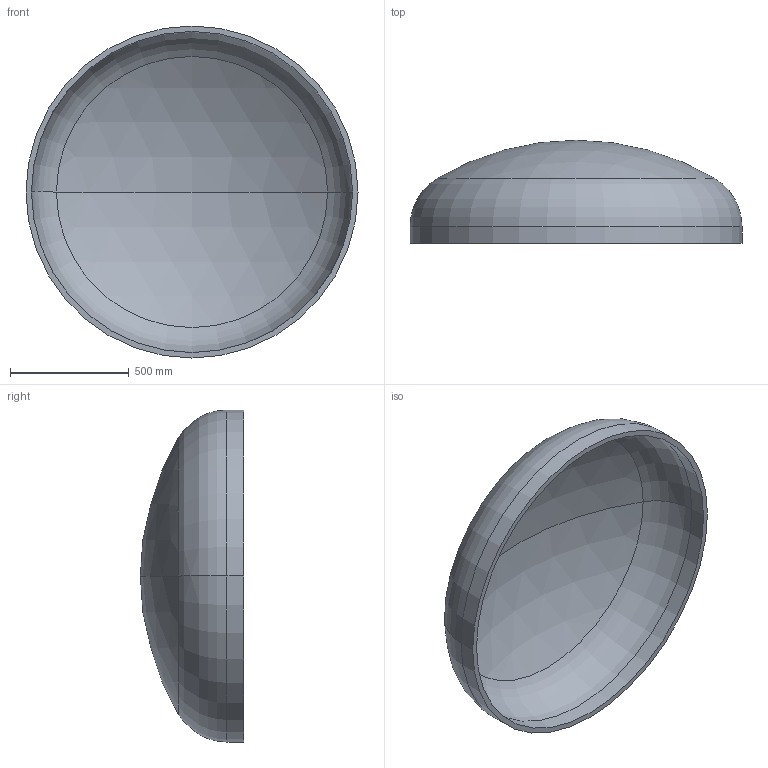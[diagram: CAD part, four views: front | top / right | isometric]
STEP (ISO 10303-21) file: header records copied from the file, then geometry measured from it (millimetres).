
FILE_DESCRIPTION (( 'STEP AP203' ), '1' );
FILE_NAME ('DIN 28013 Korbbogenform_-_Boden DIN 28013 - 1400 x 70 - I - s=23.step', '2016-07-01T10:12:00', ( '' ), ( '' ), 'SwSTEP 2.0', 'SolidWorks 2013', '' );
FILE_SCHEMA (( 'CONFIG_CONTROL_DESIGN' ));
Length unit declared in the file: millimetre
Products named in the file (1): DIN 28013 Korbbogenform_-_Boden DIN 28013 - 1400 x 70 - I - s=23
Bounding box: 1400 x 434.81 x 1400 mm (x, y, z)
Volume: 54923275.2 mm3; surface area: 4876540.7 mm2
Topology: 1 solids, 1 shells, 13 faces, 24 edges, 14 vertices
Faces by surface type: torus 4, cylinder 4, sphere 4, plane 1
Entity records: 407 total; most frequent: DIRECTION 72, CARTESIAN_POINT 52, ORIENTED_EDGE 48, AXIS2_PLACEMENT_3D 34, EDGE_CURVE 24, CIRCLE 20, VERTEX_POINT 14, EDGE_LOOP 14
